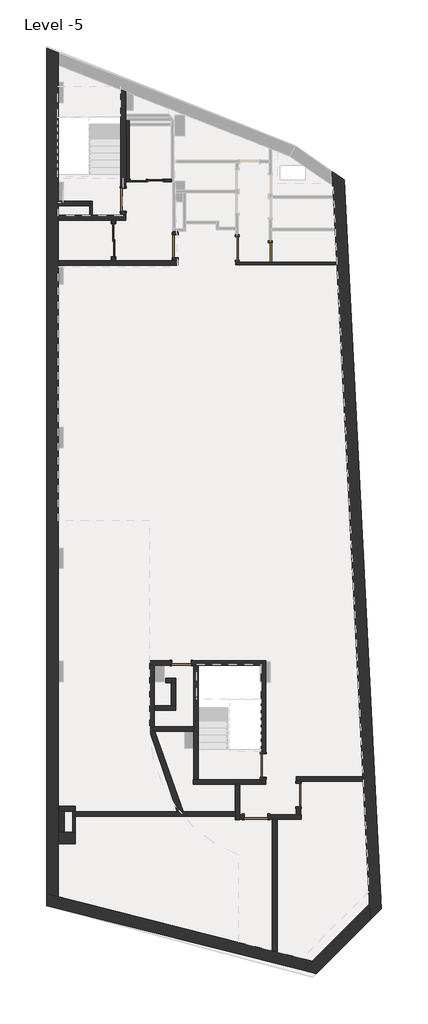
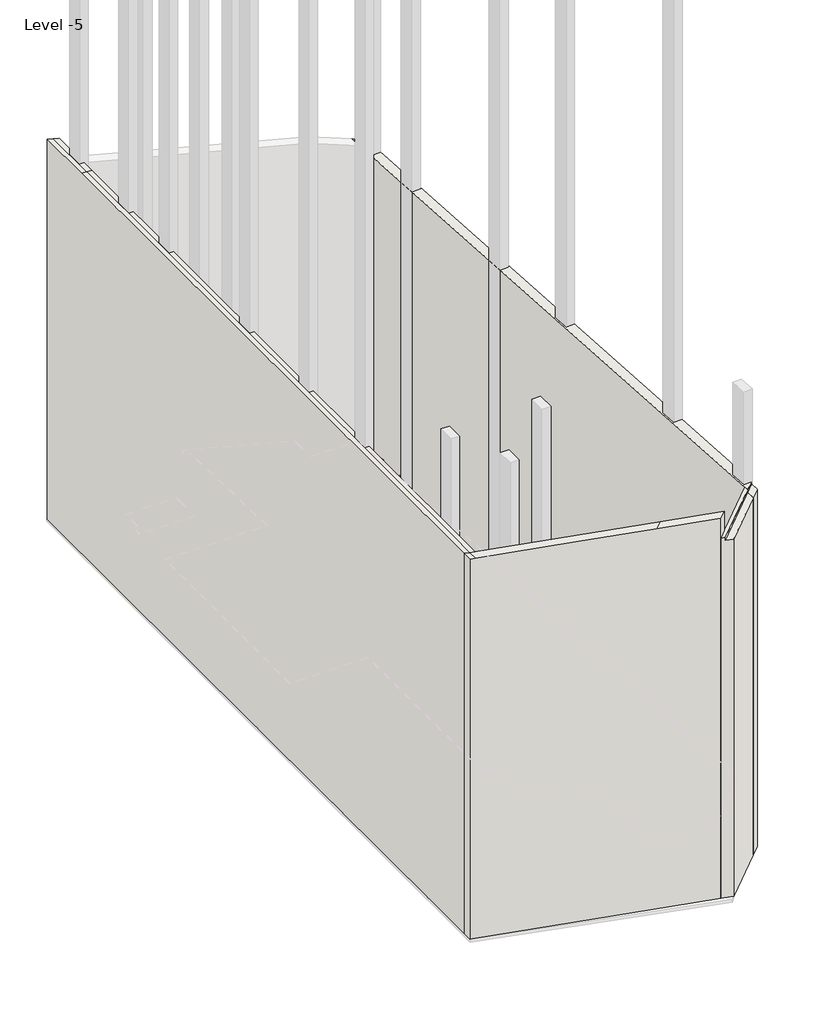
# One storey, part 1 of 3: 34 walls, 10 doors.
"""IFC4 building model written with IfcOpenShell, lengths in millimetres."""

from ifc_helpers import new_model, si_unit, point, frame, frame_2d, origin, place, context, project, spatial, polyline, circle_curve, trimmed, segment, composite_curve, outline, extrude, faceted_brep, transform, mapped, element, save
from ifc_brep_helpers import plane_surface, cylinder_surface, advanced_brep
from components import m_single_flush_0762_x_2134mm_7790ef76, m_single_flush_0762_x_2134mm_e7173df3, m_single_flush_0915_x_2032mm_88b5ae01, m_single_flush_0915_x_2134mm_ba1cf13c, m_single_flush_0915_x_2134mm_5c733ab1, sliding_door_2_panel_aus_f73f6a40, sliding_door_2_panel_aus_ee5771a8

model = new_model("IFC4")

# Units and contexts
model_context = context("Model", 3, world=origin())
ifc_project = project(units=[si_unit("LENGTHUNIT", "METRE", prefix="MILLI")], contexts=[model_context])

# Site, building, storey
site = spatial("IfcSite", under=ifc_project)
building = spatial("IfcBuilding", under=site)
storey = spatial("IfcBuildingStorey", under=building, Name="Level -5", Elevation=-17500.0)

# Doors
placement = place(None, origin())
m_single_flush_0762_x_2134mm_shape = m_single_flush_0762_x_2134mm_7790ef76(model_context)
element("IfcDoor", 1, ObjectType="M_Single-Flush : 0762 x 2134mm", at=placement, inside=storey, context=model_context, shape_type="MappedRepresentation", body=[
    mapped(m_single_flush_0762_x_2134mm_shape, transform((8282.6571461, 7262.9436582, -17500.0), x_axis=(0.0, -1.0, 0.0), y_axis=(1.0, 0.0, 0.0), z_axis=(0.0, 0.0, 1.0))),
])
m_single_flush_0762_x_2134mm_2_shape = m_single_flush_0762_x_2134mm_e7173df3(model_context)
element("IfcDoor", 2, ObjectType="M_Single-Flush : 0762 x 2134mm", at=placement, inside=storey, context=model_context, shape_type="MappedRepresentation", body=[
    mapped(m_single_flush_0762_x_2134mm_2_shape, transform((4788.992527, -8850.5298497, -17500.0), x_axis=(1.0, 0.0, 0.0), y_axis=(0.0, 1.0, 0.0), z_axis=(0.0, 0.0, 1.0))),
])
m_single_flush_0915_x_2032mm_shape = m_single_flush_0915_x_2032mm_88b5ae01(model_context)
element("IfcDoor", 3, ObjectType="M_Single-Flush : 0915 x 2032mm", at=placement, inside=storey, context=model_context, shape_type="MappedRepresentation", body=[
    mapped(m_single_flush_0915_x_2032mm_shape, transform((8009.9667664, -12880.0279318, -17500.0), x_axis=(0.0, -1.0, 0.0), y_axis=(1.0, 0.0, 0.0), z_axis=(0.0, 0.0, 1.0))),
])
element("IfcDoor", 4, ObjectType="M_Single-Flush : 0915 x 2032mm", at=placement, inside=storey, context=model_context, shape_type="MappedRepresentation", body=[
    mapped(m_single_flush_0915_x_2032mm_shape, transform((7722.1428103, -14889.2880862, -17500.0), x_axis=(1.0, 0.0, 0.0), y_axis=(0.0, 1.0, 0.0), z_axis=(0.0, 0.0, 1.0))),
])
element("IfcDoor", 5, ObjectType="M_Single-Flush : 0915 x 2032mm", at=placement, inside=storey, context=model_context, shape_type="MappedRepresentation", body=[
    mapped(m_single_flush_0915_x_2032mm_shape, transform((9389.9781144, -14035.2077139, -17500.0), x_axis=(0.0, 1.0, 0.0), y_axis=(-1.0, 0.0, 0.0), z_axis=(0.0, 0.0, 1.0))),
])
m_single_flush_0915_x_2134mm_shape = m_single_flush_0915_x_2134mm_ba1cf13c(model_context)
element("IfcDoor", 6, ObjectType="M_Single-Flush : 0915 x 2134mm", at=placement, inside=storey, context=model_context, shape_type="MappedRepresentation", body=[
    mapped(m_single_flush_0915_x_2134mm_shape, transform((6982.6571496, 7419.4436582, -17500.0), x_axis=(0.0, -1.0, 0.0), y_axis=(1.0, 0.0, 0.0), z_axis=(0.0, 0.0, 1.0))),
])
m_single_flush_0915_x_2134mm_2_shape = m_single_flush_0915_x_2134mm_5c733ab1(model_context)
element("IfcDoor", 7, ObjectType="M_Single-Flush : 0915 x 2134mm", at=placement, inside=storey, context=model_context, shape_type="MappedRepresentation", body=[
    mapped(m_single_flush_0915_x_2134mm_2_shape, transform((2509.6668671, 9329.4436159, -17500.0), x_axis=(0.0, -1.0, 0.0), y_axis=(1.0, 0.0, 0.0), z_axis=(0.0, 0.0, 1.0))),
])
element("IfcDoor", 8, ObjectType="M_Single-Flush : 0915 x 2134mm", at=placement, inside=storey, context=model_context, shape_type="MappedRepresentation", body=[
    mapped(m_single_flush_0915_x_2134mm_2_shape, transform((4549.6770164, 7499.4456458, -17500.0), x_axis=(0.0, -1.0, 0.0), y_axis=(1.0, 0.0, 0.0), z_axis=(0.0, 0.0, 1.0))),
])
sliding_door_2_panel_aus_shape = sliding_door_2_panel_aus_f73f6a40(model_context)
element("IfcDoor", 9, ObjectType="Sliding Door - 2 Panel (AUS) : elavator door", at=placement, inside=storey, context=model_context, shape_type="MappedRepresentation", body=[
    mapped(sliding_door_2_panel_aus_shape, transform((2134.7837288, 7646.1973399, -17500.0), x_axis=(0.0, 1.0, 0.0), y_axis=(-1.0, 0.0, 0.0), z_axis=(0.0, 0.0, 1.0))),
])
sliding_door_2_panel_aus_2_shape = sliding_door_2_panel_aus_ee5771a8(model_context)
element("IfcDoor", 10, ObjectType="Sliding Door - 2 Panel (AUS) : elavator door", at=placement, inside=storey, context=model_context, shape_type="MappedRepresentation", body=[
    mapped(sliding_door_2_panel_aus_2_shape, transform((3525.434997, 10081.9436225, -17500.0), x_axis=(-1.0, 0.0, 0.0), y_axis=(0.0, -1.0, 0.0), z_axis=(0.0, 0.0, 1.0))),
])

# Walls
element("IfcWall", 11, ObjectType="Generic - 10cm-gypsu-2boith", at=placement, inside=storey, context=model_context, shape_type="Brep", body=[
    faceted_brep([(10839.3061108, 6881.9436582, -17500.0), (7032.6571496, 6881.9436582, -17500.0), (6932.6571496, 6881.9436582, -17500.0), (6932.6571496, 6881.9436582, -14241.0), (7032.6571496, 6881.9436582, -14241.0), (8232.6571461, 6881.9436582, -14241.0), (8332.6571461, 6881.9436582, -14241.0), (10839.3061108, 6881.9436582, -14241.0), (6932.6571496, 6781.9436582, -17500.0), (10839.3061108, 6781.9436582, -17500.0), (10839.3061108, 6781.9436582, -14241.0), (6932.6571496, 6781.9436582, -14241.0)], [[[0, 1, 2, 3, 4, 5, 6, 7]], [[8, 9, 10, 11]], [[2, 1, 0, 9, 8]], [[9, 0, 7, 10]], [[2, 8, 11, 3]], [[7, 6, 5, 4, 3, 11, 10]]]),
])
element("IfcWall", 12, ObjectType="Generic - 18cm-gypsu-2boith 2", at=placement, inside=storey, context=model_context, shape_type="Brep", body=[
    faceted_brep([(4639.6770164, 6931.9670663, -17500.0), (4459.6770164, 6931.9670663, -17500.0), (2224.7837288, 6931.9670663, -17500.0), (2044.7837288, 6931.9670663, -17500.0), (-50.0290025, 6931.9670663, -17500.0), (-50.0290025, 6931.9670663, -14000.0), (2044.7837288, 6931.9670663, -14000.0), (2224.7837288, 6931.9670663, -14000.0), (4459.6770164, 6931.9670663, -14000.0), (4639.6770164, 6931.9670663, -14000.0), (4639.6770164, 6751.9670663, -17500.0), (4639.6770164, 6751.9670663, -14000.0), (-50.0290025, 6751.9670663, -14000.0), (-50.0290025, 6751.9670663, -17500.0)], [[[0, 1, 2, 3, 4, 5, 6, 7, 8, 9]], [[10, 11, 12, 13]], [[4, 3, 2, 1, 0, 10, 13]], [[9, 8, 7, 6, 5, 12, 11]], [[5, 4, 13, 12]], [[0, 9, 11, 10]]]),
])
element("IfcWall", 13, ObjectType="Generic - 18cm-gypsu-2boith 2", at=placement, inside=storey, context=model_context, shape_type="SweptSolid", body=[
    extrude(outline(polyline([(7041.9456458, -15366.0), (7041.9456458, -17500.0), (6931.9670663, -17500.0), (6931.9670663, -14000.0), (8066.9242252, -14000.0), (8066.9242252, -17500.0), (7956.9456458, -17500.0), (7956.9456458, -15366.0), (7041.9456458, -15366.0)])), frame((4459.6770164, 0.0, 0.0), z_axis=(1.0, 0.0, 0.0), x_axis=(0.0, 1.0, 0.0)), (0.0, 0.0, 1.0), 180.0),
])
element("IfcWall", 14, ObjectType="Generic - 18cm-gypsu-2boith 2", at=placement, inside=storey, context=model_context, shape_type="Brep", body=[
    faceted_brep([(2419.6668671, 8871.9436159, -15366.0), (2419.6668671, 8871.9436159, -17500.0), (2419.6668671, 8711.9436159, -17500.0), (2419.6668671, 8711.9436159, -14000.0), (2419.6668671, 13644.4416764, -14000.0), (2419.6668671, 13644.4416764, -17500.0), (2419.6668671, 9786.9436159, -17500.0), (2419.6668671, 9786.9436159, -15366.0), (2599.6668671, 8711.9436159, -17500.0), (2599.6668671, 8871.9436159, -17500.0), (2599.6668671, 8871.9436159, -15366.0), (2599.6668671, 9786.9436159, -15366.0), (2599.6668671, 9786.9436159, -17500.0), (2599.6668671, 13573.7027314, -17500.0), (2599.6668671, 13573.7027314, -14000.0), (2599.6668671, 8711.9436159, -14000.0)], [[[0, 1, 2, 3, 4, 5, 6, 7]], [[8, 9, 10, 11, 12, 13, 14, 15]], [[6, 5, 13, 12]], [[2, 1, 9, 8]], [[4, 3, 15, 14]], [[3, 2, 8, 15]], [[10, 9, 1, 0]], [[11, 10, 0, 7]], [[12, 11, 7, 6]], [[5, 4, 14, 13]]]),
])
element("IfcWall", 15, ObjectType="Generic - 18cm-gypsu-2boith 2", at=placement, inside=storey, context=model_context, shape_type="Brep", body=[
    faceted_brep([(2599.6668671, 8711.9436159, -17500.0), (2419.6668671, 8711.9436159, -17500.0), (-50.0290025, 8711.9436159, -17500.0), (-50.0290025, 8711.9436159, -14000.0), (2419.6668671, 8711.9436159, -14000.0), (2599.6668671, 8711.9436159, -14000.0), (2599.6668671, 8531.9436159, -17500.0), (2599.6668671, 8531.9436159, -14000.0), (2224.7837288, 8531.9436159, -14000.0), (2044.7837288, 8531.9436159, -14000.0), (-50.0290025, 8531.9436159, -14000.0), (-50.0290025, 8531.9436159, -17500.0), (2044.7837288, 8531.9436159, -17500.0), (2224.7837288, 8531.9436159, -17500.0)], [[[0, 1, 2, 3, 4, 5]], [[6, 7, 8, 9, 10, 11, 12, 13]], [[2, 1, 0, 6, 13, 12, 11]], [[5, 4, 3, 10, 9, 8, 7]], [[0, 5, 7, 6]], [[3, 2, 11, 10]]]),
])
element("IfcWall", 16, ObjectType="Generic - 10cm-gypsu-2boith", at=placement, inside=storey, context=model_context, shape_type="Brep", body=[
    faceted_brep([(1198.6625691, 9269.4957276, -17500.0), (1198.6625691, 9089.4957276, -17500.0), (1198.6625691, 8731.9436159, -17500.0), (1198.6625691, 8731.9436159, -14000.0), (1198.6625691, 9089.4957276, -14000.0), (1198.6625691, 9269.4957276, -14000.0), (1298.6625691, 9269.4957276, -17500.0), (1298.6625691, 9269.4957276, -14000.0), (1298.6625691, 8731.9436159, -14000.0), (1298.6625691, 8731.9436159, -17500.0)], [[[0, 1, 2, 3, 4, 5]], [[6, 7, 8, 9]], [[2, 1, 0, 6, 9]], [[3, 2, 9, 8]], [[5, 4, 3, 8, 7]], [[0, 5, 7, 6]]]),
])
element("IfcWall", 17, ObjectType="Generic - 18cm-gypsu-2boith 2", at=placement, inside=storey, context=model_context, shape_type="SweptSolid", body=[
    extrude(outline(polyline([(1198.6625691, 9089.4957276), (-50.0290025, 9089.4957276), (-50.0290025, 9269.4957276), (1198.6625691, 9269.4957276), (1198.6625691, 9089.4957276)])), frame((0.0, 0.0, -17500.0), z_axis=(0.0, 0.0, 1.0), x_axis=(1.0, 0.0, 0.0)), (0.0, 0.0, 1.0), 3500.0),
])
element("IfcWall", 18, ObjectType="Generic - 18cm-gypsu-2boith 2", at=placement, inside=storey, context=model_context, shape_type="Brep", body=[
    faceted_brep([(7919.9667664, -8760.5298497, -17500.0), (5169.992527, -8760.5298497, -17500.0), (5169.992527, -8760.5298497, -15366.0), (4407.992527, -8760.5298497, -15366.0), (4407.992527, -8760.5298497, -17500.0), (3549.4089841, -8760.5298497, -17500.0), (3549.4089841, -8760.5298497, -14000.0), (7919.9667664, -8760.5298497, -14000.0), (5169.992527, -8940.5298497, -15366.0), (5169.992527, -8940.5298497, -17500.0), (5269.992527, -8940.5298497, -17500.0), (5449.992527, -8940.5298497, -17500.0), (7919.9667664, -8940.5298497, -17500.0), (7919.9667664, -8940.5298497, -14000.0), (5449.992527, -8940.5298497, -14000.0), (5269.992527, -8940.5298497, -14000.0), (3731.2929486, -8940.5298497, -14000.0), (3551.2929486, -8940.5298497, -14000.0), (3549.4089841, -8940.5298497, -14000.0), (3549.4089841, -8940.5298497, -17500.0), (3551.2929486, -8940.5298497, -17500.0), (3731.2929486, -8940.5298497, -17500.0), (4407.992527, -8940.5298497, -17500.0), (4407.992527, -8940.5298497, -15366.0)], [[[0, 1, 2, 3, 4, 5, 6, 7]], [[8, 9, 10, 11, 12, 13, 14, 15, 16, 17, 18, 19, 20, 21, 22, 23]], [[12, 11, 10, 9, 1, 0]], [[22, 21, 20, 19, 5, 4]], [[6, 5, 19, 18]], [[7, 6, 18, 17, 16, 15, 14, 13]], [[2, 1, 9, 8]], [[3, 2, 8, 23]], [[4, 3, 23, 22]], [[0, 7, 13, 12]]]),
])
element("IfcWall", 19, ObjectType="Generic - 18cm-gypsu-2boith 2", at=placement, inside=storey, context=model_context, shape_type="Brep", body=[
    faceted_brep([(7919.9667664, -13337.5279318, -15468.0), (7919.9667664, -13337.5279318, -17500.0), (7919.9667664, -13437.5279318, -17500.0), (7919.9667664, -13617.5279318, -17500.0), (7919.9667664, -13617.5279318, -14000.0), (7919.9667664, -13437.5279318, -14000.0), (7919.9667664, -8940.5298497, -14000.0), (7919.9667664, -8760.5298497, -14000.0), (7919.9667664, -8760.5298497, -17500.0), (7919.9667664, -8940.5298497, -17500.0), (7919.9667664, -12422.5279318, -17500.0), (7919.9667664, -12422.5279318, -15468.0), (8099.9667664, -13617.5279318, -17500.0), (8099.9667664, -13337.5279318, -17500.0), (8099.9667664, -13337.5279318, -15468.0), (8099.9667664, -12422.5279318, -15468.0), (8099.9667664, -12422.5279318, -17500.0), (8099.9667664, -8760.5298497, -17500.0), (8099.9667664, -8760.5298497, -14000.0), (8099.9667664, -13617.5279318, -14000.0)], [[[0, 1, 2, 3, 4, 5, 6, 7, 8, 9, 10, 11]], [[12, 13, 14, 15, 16, 17, 18, 19]], [[3, 2, 1, 13, 12]], [[10, 9, 8, 17, 16]], [[7, 6, 5, 4, 19, 18]], [[4, 3, 12, 19]], [[14, 13, 1, 0]], [[15, 14, 0, 11]], [[16, 15, 11, 10]], [[8, 7, 18, 17]]]),
])
element("IfcWall", 20, ObjectType="Generic - 18cm-gypsu-2boith 2", at=placement, inside=storey, context=model_context, shape_type="Brep", body=[
    faceted_brep([(5449.992527, -13437.5279318, -17500.0), (5449.992527, -8940.5298497, -17500.0), (5449.992527, -8940.5298497, -14000.0), (5449.992527, -13437.5279318, -14000.0), (5269.992527, -13437.5279318, -17500.0), (5269.992527, -13437.5279318, -14000.0), (5269.992527, -11535.2406086, -14000.0), (5269.992527, -11355.2406086, -14000.0), (5269.992527, -8940.5298497, -14000.0), (5269.992527, -8940.5298497, -17500.0), (5269.992527, -11355.2406086, -17500.0), (5269.992527, -11535.2406086, -17500.0)], [[[0, 1, 2, 3]], [[4, 5, 6, 7, 8, 9, 10, 11]], [[1, 0, 4, 11, 10, 9]], [[3, 2, 8, 7, 6, 5]], [[2, 1, 9, 8]], [[0, 3, 5, 4]]]),
])
element("IfcWall", 21, ObjectType="Generic - 18cm-gypsu-2boith 2", at=placement, inside=storey, context=model_context, shape_type="Brep", body=[
    faceted_brep([(7919.9667664, -13437.5279318, -17500.0), (5449.992527, -13437.5279318, -17500.0), (5269.992527, -13437.5279318, -17500.0), (5249.9709976, -13437.5279318, -17500.0), (5249.9709976, -13437.5279318, -14000.0), (5269.992527, -13437.5279318, -14000.0), (5449.992527, -13437.5279318, -14000.0), (7919.9667664, -13437.5279318, -14000.0), (7919.9667664, -13617.5279318, -17500.0), (7919.9667664, -13617.5279318, -14000.0), (7077.1731359, -13617.5279318, -14000.0), (6897.1731359, -13617.5279318, -14000.0), (5249.9709976, -13617.5279318, -14000.0), (5249.9709976, -13617.5279318, -17500.0), (6897.1731359, -13617.5279318, -17500.0), (7077.1731359, -13617.5279318, -17500.0)], [[[0, 1, 2, 3, 4, 5, 6, 7]], [[8, 9, 10, 11, 12, 13, 14, 15]], [[3, 2, 1, 0, 8, 15, 14, 13]], [[4, 3, 13, 12]], [[7, 6, 5, 4, 12, 11, 10, 9]], [[0, 7, 9, 8]]]),
])
element("IfcWall", 22, ObjectType="Generic - 18cm-gypsu-2boith 2", at=placement, inside=storey, context=model_context, shape_type="Brep", body=[
    faceted_brep([(11918.2515023, -13317.7077139, -17500.0), (9299.9781144, -13317.7077139, -17500.0), (9299.9781144, -13317.7077139, -14241.0), (11918.2515023, -13317.7077139, -14241.0), (9299.9781144, -13497.7077139, -17500.0), (9479.9781144, -13497.7077139, -17500.0), (11927.4136521, -13497.7077139, -17500.0), (11927.4136521, -13497.7077139, -14241.0), (9479.9781144, -13497.7077139, -14241.0), (9299.9781144, -13497.7077139, -14241.0)], [[[0, 1, 2, 3]], [[4, 5, 6, 7, 8, 9]], [[1, 0, 6, 5, 4]], [[6, 0, 3, 7]], [[1, 4, 9, 2]], [[3, 2, 9, 8, 7]]]),
])
element("IfcWall", 23, ObjectType="Generic - 18cm-gypsu-2boith 2", at=placement, inside=storey, context=model_context, shape_type="SweptSolid", body=[
    extrude(outline(polyline([(-13577.7077139, -17500.0), (-13577.7077139, -15468.0), (-14492.7077139, -15468.0), (-14492.7077139, -17500.0), (-14799.2880862, -17500.0), (-14799.2880862, -14241.0), (-13497.7077139, -14241.0), (-13497.7077139, -17500.0), (-13577.7077139, -17500.0)])), frame((9299.9781144, 0.0, 0.0), z_axis=(1.0, 0.0, 0.0), x_axis=(0.0, 1.0, 0.0)), (0.0, 0.0, 1.0), 180.0),
])
element("IfcWall", 24, ObjectType="Generic - 18cm-gypsu-2boith 2", at=placement, inside=storey, context=model_context, shape_type="Brep", body=[
    faceted_brep([(6897.1731359, -13617.5279318, -17500.0), (6897.1731359, -14689.2880862, -17500.0), (6897.1731359, -14869.2880862, -17500.0), (6897.1731359, -15009.2880862, -17500.0), (6897.1731359, -15009.2880862, -14241.0), (6897.1731359, -13617.5279318, -14241.0), (7077.1731359, -15009.2880862, -17500.0), (7077.1731359, -14979.2880862, -17500.0), (7077.1731359, -14799.2880862, -17500.0), (7077.1731359, -13617.5279318, -17500.0), (7077.1731359, -13617.5279318, -14241.0), (7077.1731359, -14799.2880862, -14241.0), (7077.1731359, -14979.2880862, -14241.0), (7077.1731359, -15009.2880862, -14241.0)], [[[0, 1, 2, 3, 4, 5]], [[6, 7, 8, 9, 10, 11, 12, 13]], [[3, 2, 1, 0, 9, 8, 7, 6]], [[3, 6, 13, 4]], [[9, 0, 5, 10]], [[5, 4, 13, 12, 11, 10]]]),
])
element("IfcWall", 25, ObjectType="Generic - 18cm-gypsu-2boith 2", at=placement, inside=storey, context=model_context, shape_type="Brep", body=[
    faceted_brep([(8179.6428103, -14799.2880862, -17500.0), (8179.6428103, -14799.2880862, -15468.0), (7264.6428103, -14799.2880862, -15468.0), (7264.6428103, -14799.2880862, -17500.0), (7077.1731359, -14799.2880862, -17500.0), (7077.1731359, -14799.2880862, -14241.0), (9299.9781144, -14799.2880862, -14241.0), (9479.9781144, -14799.2880862, -14241.0), (9499.9781144, -14799.2880862, -14241.0), (9499.9781144, -14799.2880862, -17500.0), (9479.9781144, -14799.2880862, -17500.0), (9299.9781144, -14799.2880862, -17500.0), (8179.6428103, -14979.2880862, -15468.0), (8179.6428103, -14979.2880862, -17500.0), (8367.1124847, -14979.2880862, -17500.0), (8547.1124847, -14979.2880862, -17500.0), (9499.9781144, -14979.2880862, -17500.0), (9499.9781144, -14979.2880862, -14241.0), (8547.1124847, -14979.2880862, -14241.0), (8367.1124847, -14979.2880862, -14241.0), (7077.1731359, -14979.2880862, -14241.0), (7077.1731359, -14979.2880862, -17500.0), (7264.6428103, -14979.2880862, -17500.0), (7264.6428103, -14979.2880862, -15468.0)], [[[0, 1, 2, 3, 4, 5, 6, 7, 8, 9, 10, 11]], [[12, 13, 14, 15, 16, 17, 18, 19, 20, 21, 22, 23]], [[9, 16, 15, 14, 13, 0, 11, 10]], [[21, 4, 3, 22]], [[16, 9, 8, 17]], [[1, 0, 13, 12]], [[2, 1, 12, 23]], [[3, 2, 23, 22]], [[4, 21, 20, 5]], [[8, 7, 6, 5, 20, 19, 18, 17]]]),
])
element("IfcWall", 26, ObjectType="Generic - 18cm-gypsu-2boith 2", at=placement, inside=storey, context=model_context, shape_type="SweptSolid", body=[
    extrude(outline(polyline([(8367.1124847, -20147.3969792), (8367.1124847, -14979.2880862), (8547.1124847, -14979.2880862), (8547.1124847, -20192.8959448), (8367.1124847, -20147.3969792)])), frame((0.0, 0.0, -17500.0), z_axis=(0.0, 0.0, 1.0), x_axis=(1.0, 0.0, 0.0)), (0.0, 0.0, 1.0), 3259.0),
])
element("IfcWall", 27, ObjectType="Generic - 18cm-gypsu-2boith 2", at=placement, inside=storey, context=model_context, shape_type="Brep", body=[
    faceted_brep([(6897.1731359, -14689.2880862, -17500.0), (4859.7951015, -14689.2880862, -17500.0), (4622.293452, -14689.2880862, -17500.0), (629.6921124, -14689.2880862, -17500.0), (629.6921124, -14689.2880862, -15690.9964414), (6897.1731359, -14689.2880862, -15690.9964414), (6897.1731359, -14869.2880862, -17500.0), (6897.1731359, -14869.2880862, -15690.9964414), (629.6921124, -14869.2880862, -15690.9964414), (629.6921124, -14869.2880862, -17500.0)], [[[0, 1, 2, 3, 4, 5]], [[6, 7, 8, 9]], [[3, 2, 1, 0, 6, 9]], [[5, 4, 8, 7]], [[0, 5, 7, 6]], [[4, 3, 9, 8]]]),
])
element("IfcWall", 28, ObjectType="Generic - 18cm-gypsu-2boith 2", at=placement, inside=storey, context=model_context, shape_type="AdvancedBrep", body=[
    advanced_brep(
    [(5269.992527, -11355.2406086, -17500.0), (3571.3264677, -11355.2406086, -17500.0), (3571.3264677, -11355.2406086, -14000.0), (5269.992527, -11355.2406086, -14000.0), (5269.992527, -11535.2406086, -17500.0), (5269.992527, -11535.2406086, -14000.0), (3740.061619, -11535.2406086, -14000.0), (3559.8804604, -11535.2406086, -14000.0), (3559.8804604, -11535.2406086, -17500.0), (3740.061619, -11535.2406086, -17500.0)],
    [
        (0, 1),
        (1, 2),
        (2, 3),
        (3, 0),
        (4, 5),
        (5, 6),
        (6, 7),
        (7, 8),
        (8, 9),
        (9, 4),
        (0, 4),
        (8, 1, circle_curve(frame((8170.7225142, -11738.0751988, -17500.0), z_axis=(0.0, 0.0, -1.0), x_axis=(-0.996421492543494, -0.08452342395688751, 0.0)), 4615.3013245)),
        (2, 7, circle_curve(frame((8170.7225142, -11738.0751988, -14000.0), z_axis=(0.0, 0.0, 1.0), x_axis=(-0.996421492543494, -0.08452342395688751, 0.0)), 4615.3013245)),
        (5, 3),
    ],
    [
        plane_surface(frame((4899.9914965, -11355.2406086, -17500.0), z_axis=(0.0, 1.0, 0.0), x_axis=(-1.0, 0.0, 0.0))),
        plane_surface(frame((4899.9914965, -11535.2406086, -17500.0), z_axis=(0.0, -1.0, 0.0), x_axis=(1.0, 0.0, 0.0))),
        plane_surface(frame((5359.992527, -11355.2406086, -17500.0), z_axis=(0.0, 0.0, -1.0), x_axis=(0.0, -1.0, 0.0))),
        plane_surface(frame((3654.9058682, -11355.2406086, -14000.0), z_axis=(0.0, 0.0, 1.0), x_axis=(0.0, -1.0, 0.0))),
        cylinder_surface(frame((8170.7225142, -11738.0751988, -17500.0), z_axis=(0.0, 0.0, 1.0), x_axis=(-0.996421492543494, -0.08452342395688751, 0.0)), 4615.3013245),
        plane_surface(frame((5269.992527, -8797.3826572, -17500.0), z_axis=(1.0, 0.0, 0.0), x_axis=(0.0, -1.0, 0.0))),
    ],
    [
        (0, [[1, 2, 3, 4]]),
        (1, [[5, 6, 7, 8, 9, 10]]),
        (2, [[-1, 11, -10, -9, 12]]),
        (3, [[-3, 13, -7, -6, 14]]),
        (4, [[-2, -12, -8, -13]]),
        (5, [[-4, -14, -5, -11]]),
    ],
),
])
element("IfcWall", 29, ObjectType="Generic - 18cm-gypsu-2boith 2", at=placement, inside=storey, context=model_context, shape_type="Brep", body=[
    faceted_brep([(4578.6875281, -10530.0867626, -17500.0), (4398.6875281, -10530.0867626, -17500.0), (3731.2929486, -10530.0867626, -17500.0), (3731.2929486, -10530.0867626, -14000.0), (4398.6875281, -10530.0867626, -14000.0), (4578.6875281, -10530.0867626, -14000.0), (4578.6875281, -10710.0867626, -17500.0), (4578.6875281, -10710.0867626, -14000.0), (3731.2929486, -10710.0867626, -14000.0), (3731.2929486, -10710.0867626, -17500.0)], [[[0, 1, 2, 3, 4, 5]], [[6, 7, 8, 9]], [[2, 1, 0, 6, 9]], [[5, 4, 3, 8, 7]], [[0, 5, 7, 6]], [[3, 2, 9, 8]]]),
])
element("IfcWall", 30, ObjectType="Generic - 18cm-gypsu-2boith 2", at=placement, inside=storey, context=model_context, shape_type="SweptSolid", body=[
    extrude(outline(polyline([(4398.6875281, -10530.0867626), (4398.6875281, -9630.0867626), (4578.6875281, -9630.0867626), (4578.6875281, -10530.0867626), (4398.6875281, -10530.0867626)])), frame((0.0, 0.0, -17500.0), z_axis=(0.0, 0.0, 1.0), x_axis=(1.0, 0.0, 0.0)), (0.0, 0.0, 1.0), 3500.0),
])
element("IfcWall", 31, ObjectType="Generic - 18cm-gypsu-2boith 2", at=placement, inside=storey, context=model_context, shape_type="Brep", body=[
    faceted_brep([(4180.1461928, -9630.0867626, -17500.0), (4398.6875281, -9630.0867626, -17500.0), (4578.6875281, -9630.0867626, -17500.0), (4578.6875281, -9630.0867626, -14000.0), (4398.6875281, -9630.0867626, -14000.0), (4180.1461928, -9630.0867626, -14000.0), (4180.1461928, -9450.0867626, -17500.0), (4180.1461928, -9450.0867626, -14000.0), (4578.6875281, -9450.0867626, -14000.0), (4578.6875281, -9450.0867626, -17500.0)], [[[0, 1, 2, 3, 4, 5]], [[6, 7, 8, 9]], [[2, 1, 0, 6, 9]], [[5, 4, 3, 8, 7]], [[0, 5, 7, 6]], [[3, 2, 9, 8]]]),
])
element("IfcWall", 32, ObjectType="Generic - 18cm-gypsu-2boith 2", at=placement, inside=storey, context=model_context, shape_type="Brep", body=[
    faceted_brep([(3551.2929486, -8940.5298497, -17500.0), (3551.2929486, -11345.2406086, -17500.0), (3551.2929486, -11345.2406086, -14000.0), (3551.2929486, -8940.5298497, -14000.0), (3731.2929486, -8940.5298497, -17500.0), (3731.2929486, -8940.5298497, -14000.0), (3731.2929486, -10530.0867626, -14000.0), (3731.2929486, -10710.0867626, -14000.0), (3731.2929486, -11345.2406086, -14000.0), (3731.2929486, -11345.2406086, -17500.0), (3731.2929486, -10710.0867626, -17500.0), (3731.2929486, -10530.0867626, -17500.0)], [[[0, 1, 2, 3]], [[4, 5, 6, 7, 8, 9, 10, 11]], [[1, 0, 4, 11, 10, 9]], [[2, 1, 9, 8]], [[3, 2, 8, 7, 6, 5]], [[0, 3, 5, 4]]]),
])
element("IfcWall", 33, ObjectType="Generic - 18cm-gypsu-2boith 2", at=placement, inside=storey, context=model_context, shape_type="SweptSolid", body=[
    extrude(outline(composite_curve([segment(polyline([(4859.7951015, -14689.2880862), (4622.293452, -14689.2880862)]), True, "CONTINUOUS"), segment(trimmed(circle_curve(frame_2d((8170.7225142, -11738.0751988)), 4615.3013245), [point((4622.293452, -14689.2880862))], [point((3559.8804604, -11535.2406086))], False, "CARTESIAN"), True, "CONTINUOUS"), segment(polyline([(3559.8804604, -11535.2406086), (3740.061619, -11535.2406086)]), True, "CONTINUOUS"), segment(trimmed(circle_curve(frame_2d((8170.7225142, -11738.0751988)), 4435.3013245), [point((3740.061619, -11535.2406086))], [point((4859.7951015, -14689.2880862))], True, "CARTESIAN"), True, "CONTINUOUS")], self_intersect=False)), frame((0.0, 0.0, -17500.0), z_axis=(0.0, 0.0, 1.0), x_axis=(1.0, 0.0, 0.0)), (0.0, 0.0, 1.0), 3500.0),
])
element("IfcWall", 34, ObjectType="Generic - 10cm-gypsu-2boith", at=placement, inside=storey, context=model_context, shape_type="AdvancedBrep", body=[
    advanced_brep(
    [(529.6921124, -14677.0281251, -17500.0), (529.6921124, -15487.6321885, -17500.0), (529.6921124, -15487.6321885, -14241.0), (529.6921124, -14677.0281251, -14241.0), (629.6921124, -15487.6321885, -17500.0), (629.6921124, -14869.2880862, -17500.0), (629.6921124, -14689.2880862, -17500.0), (629.6921124, -14677.5677486, -17500.0), (629.6921124, -14677.5677486, -14000.0), (629.6921124, -14756.161328, -14000.0), (629.6921124, -14756.161328, -14241.0), (629.6921124, -15487.6321885, -14241.0), (597.5579867, -14677.3943453, -14000.0), (597.5579867, -14677.3943453, -14241.0)],
    [
        (0, 1),
        (1, 2),
        (2, 3),
        (3, 0),
        (4, 5),
        (5, 6),
        (6, 7),
        (7, 8),
        (8, 9),
        (9, 10),
        (10, 11),
        (11, 4),
        (0, 7),
        (4, 1),
        (8, 12),
        (12, 9, circle_curve(frame((9044.1542392, -11277.4219597, -14000.0), z_axis=(0.0, 0.0, 1.0), x_axis=(1.0, 0.0, 0.0)), 9105.2073274)),
        (11, 2),
        (3, 13),
        (13, 12),
        (10, 13, circle_curve(frame((9044.1542392, -11277.4219597, -14241.0), z_axis=(0.0, 0.0, -1.0), x_axis=(1.0, 0.0, 0.0)), 9105.2073274)),
    ],
    [
        plane_surface(frame((529.6921124, -14909.2880862, -17500.0), z_axis=(-1.0, 0.0, 0.0), x_axis=(0.0, -1.0, 0.0))),
        plane_surface(frame((629.6921124, -14909.2880862, -17500.0), z_axis=(1.0, 0.0, 0.0), x_axis=(0.0, 1.0, 0.0))),
        plane_surface(frame((529.6921124, -14577.2964809, -17500.0), z_axis=(0.0, 0.0, -1.0), x_axis=(1.0, 0.0, 0.0))),
        plane_surface(frame((529.6921124, -15712.6321885, -14000.0), z_axis=(0.0, 0.0, 1.0), x_axis=(1.0, 0.0, 0.0))),
        plane_surface(frame((679.6921124, -15487.6321885, -17500.0), z_axis=(0.0, -1.0, 0.0), x_axis=(-1.0, 0.0, 0.0))),
        plane_surface(frame((193.1581362, -14675.2121088, -17500.0), z_axis=(0.0053961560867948, 0.999985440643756, 0.0), x_axis=(0.999985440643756, -0.0053961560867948, 0.0))),
        plane_surface(frame((9156.5694815, 11238.6298521, -14241.0), z_axis=(0.0, 0.0, 1.0), x_axis=(0.8216198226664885, -0.5700358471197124, 0.0))),
        cylinder_surface(frame((9044.1542392, -11277.4219597, -14000.0), z_axis=(0.0, 0.0, 1.0), x_axis=(1.0, 0.0, 0.0)), 9105.2073274),
    ],
    [
        (0, [[1, 2, 3, 4]]),
        (1, [[5, 6, 7, 8, 9, 10, 11, 12]]),
        (2, [[-1, 13, -7, -6, -5, 14]]),
        (3, [[-9, 15, 16]]),
        (4, [[-14, -12, 17, -2]]),
        (5, [[-8, -13, -4, 18, 19, -15]]),
        (6, [[20, -18, -3, -17, -11]]),
        (7, [[-20, -10, -16, -19]]),
    ],
),
])
element("IfcWall", 35, ObjectType="Generic - 10cm-gypsu-2boith", at=placement, inside=storey, context=model_context, shape_type="Brep", body=[
    faceted_brep([(4399.6302337, 10031.9436225, -14000.0), (2649.6769958, 10031.9436225, -14000.0), (2649.6769958, 10031.9436225, -17500.0), (2749.6769958, 10031.9436225, -17500.0), (2749.6769958, 10031.9436225, -15317.0), (4129.6769958, 10031.9436225, -15317.0), (4129.6769958, 10031.9436225, -17500.0), (4399.6302337, 10031.9436225, -17500.0), (2649.6769958, 10131.9436225, -14000.0), (2749.6769958, 10131.9436225, -14000.0), (4399.6302337, 10131.9436225, -14000.0), (4399.6302337, 10131.9436225, -17500.0), (4129.6769958, 10131.9436225, -17500.0), (4129.6769958, 10131.9436225, -15317.0), (2749.6769958, 10131.9436225, -15317.0), (2749.6769958, 10131.9436225, -17500.0), (2649.6769958, 10131.9436225, -17500.0)], [[[0, 1, 2, 3, 4, 5, 6, 7]], [[8, 9, 10, 11, 12, 13, 14, 15, 16]], [[2, 16, 15, 3]], [[11, 7, 6, 12]], [[1, 0, 10, 9, 8]], [[2, 1, 8, 16]], [[0, 7, 11, 10]], [[5, 13, 12, 6]], [[13, 5, 4, 14]], [[14, 4, 3, 15]]]),
])
element("IfcWall", 36, ObjectType="Generic - 10cm-gypsu-2boith", at=placement, inside=storey, context=model_context, shape_type="Brep", body=[
    faceted_brep([(2649.6769958, 12431.9436225, -17500.0), (2649.6769958, 10131.9436225, -17500.0), (2649.6769958, 10131.9436225, -14000.0), (2649.6769958, 12431.9436225, -14000.0), (2749.6769958, 12431.9436225, -17500.0), (2749.6769958, 12431.9436225, -14000.0), (2749.6769958, 12331.9436225, -14000.0), (2749.6769958, 12231.9436225, -14000.0), (2749.6769958, 10131.9436225, -14000.0), (2749.6769958, 10131.9436225, -17500.0), (2749.6769958, 12231.9436225, -17500.0), (2749.6769958, 12331.9436225, -17500.0)], [[[0, 1, 2, 3]], [[4, 5, 6, 7, 8, 9, 10, 11]], [[1, 0, 4, 11, 10, 9]], [[3, 2, 8, 7, 6, 5]], [[2, 1, 9, 8]], [[0, 3, 5, 4]]]),
])
element("IfcWall", 37, ObjectType="Generic - 18cm-gypsu-2boith 2", at=placement, inside=storey, context=model_context, shape_type="SweptSolid", body=[
    extrude(outline(polyline([(6931.9670663, -14000.0), (8531.9436159, -14000.0), (8531.9436159, -17500.0), (8421.9553411, -17500.0), (8421.9553411, -15317.0), (7041.9553411, -15317.0), (7041.9553411, -17500.0), (6931.9670663, -17500.0), (6931.9670663, -14000.0)])), frame((2044.7837288, 0.0, 0.0), z_axis=(1.0, 0.0, 0.0), x_axis=(0.0, 1.0, 0.0)), (0.0, 0.0, 1.0), 180.0),
])
element("IfcWall", 38, ObjectType="Generic - 200mm", at=placement, inside=storey, context=model_context, shape_type="AdvancedBrep", body=[
    advanced_brep(
    [(629.6921124, -14477.5648367, -17500.0), (-6.8418638, -14474.12995, -17500.0), (-6.8418638, -14474.12995, -14241.0), (519.6198058, -14476.9708607, -14241.0), (519.6198058, -14476.9708607, -14000.0), (629.6921124, -14477.5648367, -14000.0), (-6.8418638, -14674.1328619, -17500.0), (193.1581362, -14675.2121088, -17500.0), (529.6921124, -14677.0281251, -17500.0), (629.6921124, -14677.5677486, -17500.0), (629.6921124, -14677.5677486, -14000.0), (597.5579867, -14677.3943453, -14000.0), (597.5579867, -14677.3943453, -14241.0), (529.6921124, -14677.0281251, -14241.0), (193.1581362, -14675.2121088, -14241.0), (-6.8418638, -14674.1328619, -14241.0)],
    [
        (0, 1),
        (1, 2),
        (2, 3),
        (3, 4),
        (4, 5),
        (5, 0),
        (6, 7),
        (7, 8),
        (8, 9),
        (9, 10),
        (10, 11),
        (11, 12),
        (12, 13),
        (13, 14),
        (14, 15),
        (15, 6),
        (0, 9),
        (6, 1),
        (10, 5),
        (4, 11, circle_curve(frame((9044.1542392, -11277.4219597, -14000.0), z_axis=(0.0, 0.0, 1.0), x_axis=(1.0, 0.0, 0.0)), 9105.2073274)),
        (15, 2),
        (12, 3, circle_curve(frame((9044.1542392, -11277.4219597, -14241.0), z_axis=(0.0, 0.0, -1.0), x_axis=(1.0, 0.0, 0.0)), 9105.2073274)),
    ],
    [
        plane_surface(frame((194.2373674, -14475.2150207, -17500.0), z_axis=(0.0053961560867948, 0.999985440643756, 0.0), x_axis=(-0.999985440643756, 0.0053961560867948, 0.0))),
        plane_surface(frame((193.1581362, -14675.2121088, -17500.0), z_axis=(-0.0053961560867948, -0.999985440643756, 0.0), x_axis=(0.999985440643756, -0.0053961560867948, 0.0))),
        plane_surface(frame((580.231728, -14477.2979368, -17500.0), z_axis=(0.0, 0.0, -1.0), x_axis=(-0.005396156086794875, -0.999985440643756, 0.0))),
        plane_surface(frame((93.6977518, -14474.6724853, -14000.0), z_axis=(0.0, 0.0, 1.0), x_axis=(-0.00539615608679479, -0.999985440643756, 0.0))),
        plane_surface(frame((-6.8418638, -15445.2121088, -17500.0), z_axis=(-1.0, 0.0, 0.0), x_axis=(0.0, -1.0, 0.0))),
        plane_surface(frame((629.6921124, -14909.2880862, -17500.0), z_axis=(1.0, 0.0, 0.0), x_axis=(0.0, 1.0, 0.0))),
        plane_surface(frame((9156.5694815, 11238.6298521, -14241.0), z_axis=(0.0, 0.0, 1.0), x_axis=(0.8216198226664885, -0.5700358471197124, 0.0))),
        cylinder_surface(frame((9044.1542392, -11277.4219597, -14000.0), z_axis=(0.0, 0.0, 1.0), x_axis=(1.0, 0.0, 0.0)), 9105.2073274),
    ],
    [
        (0, [[1, 2, 3, 4, 5, 6]]),
        (1, [[7, 8, 9, 10, 11, 12, 13, 14, 15, 16]]),
        (2, [[-1, 17, -9, -8, -7, 18]]),
        (3, [[19, -5, 20, -11]]),
        (4, [[-18, -16, 21, -2]]),
        (5, [[-6, -19, -10, -17]]),
        (6, [[22, -3, -21, -15, -14, -13]]),
        (7, [[-22, -12, -20, -4]]),
    ],
),
])
element("IfcWall", 39, ObjectType="Generic - 200mm", at=placement, inside=storey, context=model_context, shape_type="SweptSolid", body=[
    extrude(outline(polyline([(-6.8418638, -15487.6321885), (-6.8418638, -14674.1328619), (193.1581362, -14675.2121088), (193.1581362, -15487.6321885), (-6.8418638, -15487.6321885)])), frame((0.0, 0.0, -17500.0), z_axis=(0.0, 0.0, 1.0), x_axis=(1.0, 0.0, 0.0)), (0.0, 0.0, 1.0), 3259.0),
])
element("IfcWall", 40, ObjectType="Generic - 45cm-granit", at=placement, inside=storey, context=model_context, shape_type="Brep", body=[
    faceted_brep([(10709.2052689, 10435.2679588, -17500.0), (10738.1041383, 9867.5194958, -17500.0), (10822.3546218, 8212.3307768, -17500.0), (10827.4447051, 8112.3307768, -17500.0), (11918.2515023, -13317.7077139, -17500.0), (11927.4136521, -13497.7077139, -17500.0), (12173.3240767, -18328.8747695, -17500.0), (12204.1481948, -18934.4467545, -17500.0), (12204.1481948, -18934.4467545, -150.0), (12183.9880295, -18538.3792587, -150.0), (12183.9880295, -18538.3792587, 0.0), (12173.3240767, -18328.8747695, 0.0), (10816.8754244, 8319.9753316, 0.0), (10808.7312912, 8479.9753316, 0.0), (10738.1041383, 9867.5194958, 0.0), (10709.2052689, 10435.2679588, 0.0), (12632.9066088, -18505.6883405, -17500.0), (11177.5534367, 10086.2443227, -17500.0), (11177.5534367, 10086.2443227, 0.0), (12612.7464436, -18109.6208447, 0.0), (12612.7464436, -18109.6208447, -150.0), (12632.9066088, -18505.6883405, -150.0), (11150.3338228, 10129.2151081, -17500.0), (11152.5857601, 10084.9734471, -17500.0), (11150.3338228, 10129.2151081, 0.0), (11152.5857601, 10084.9734471, 0.0)], [[[0, 1, 2, 3, 4, 5, 6, 7, 8, 9, 10, 11, 12, 13, 14, 15]], [[16, 17, 18, 19, 20, 21]], [[7, 6, 5, 4, 3, 2, 1, 0, 22, 23, 17, 16]], [[24, 15, 14, 13, 12, 11, 10, 19, 18, 25]], [[7, 16, 21, 8]], [[0, 15, 24, 22]], [[23, 25, 18, 17]], [[25, 23, 22, 24]], [[20, 9, 8, 21]], [[9, 20, 19, 10]]]),
])
element("IfcWall", 41, ObjectType="Generic - 45cm-granit", at=placement, inside=storey, context=model_context, shape_type="Brep", body=[
    faceted_brep([(12173.3240767, -18328.8747695, -17500.0), (9953.7454338, -20548.4534124, -17500.0), (9583.2442641, -20918.9545821, -17500.0), (9583.2442641, -20918.9545821, 0.0), (12173.3240767, -18328.8747695, 0.0), (10091.2346145, -21047.3603347, -17500.0), (12204.1481948, -18934.4467545, -17500.0), (12204.1481948, -18934.4467545, -150.0), (10091.2346145, -21047.3603347, -150.0), (9758.9892813, -20963.378007, 0.0), (12183.9880295, -18538.3792587, 0.0), (12183.9880295, -18538.3792587, -150.0), (9758.9892813, -20963.378007, -150.0)], [[[0, 1, 2, 3, 4]], [[5, 6, 7, 8]], [[2, 1, 0, 6, 5]], [[4, 3, 9, 10]], [[0, 4, 10, 11, 7, 6]], [[3, 2, 5, 8, 12, 9]], [[11, 12, 8, 7]], [[12, 11, 10, 9]]]),
])
element("IfcWall", 42, ObjectType="Generic - 45cm-granit", at=placement, inside=storey, context=model_context, shape_type="Brep", body=[
    faceted_brep([(9953.7454338, -20548.4534124, -17500.0), (8547.1124847, -20192.8959448, -17500.0), (8367.1124847, -20147.3969792, -17500.0), (-50.0290025, -18019.7790287, -17500.0), (-500.0290025, -17906.0316147, -17500.0), (-500.0290025, -17906.0316147, 959.0), (-275.0290025, -17962.9053217, 959.0), (-50.0290025, -18019.7790287, 959.0), (7379.0892698, -19897.6523443, 959.0), (9953.7454338, -20548.4534124, 959.0), (9583.2442641, -20918.9545821, -17500.0), (9583.2442641, -20918.9545821, 0.0), (9583.2442641, -20918.9545821, 959.0), (7008.5881001, -20268.1535139, 959.0), (3749.6376114, -19444.3819794, 959.0), (-275.0290025, -18427.0588246, 959.0), (-500.0290025, -18370.1851175, 959.0), (-500.0290025, -18370.1851175, -17500.0)], [[[0, 1, 2, 3, 4, 5, 6, 7, 8, 9]], [[10, 11, 12, 13, 14, 15, 16, 17]], [[4, 3, 2, 1, 0, 10, 17]], [[0, 9, 12, 11, 10]], [[5, 4, 17, 16]], [[9, 8, 13, 12]], [[6, 5, 16, 15]], [[8, 7, 6, 15, 14, 13]]]),
])
element("IfcWall", 43, ObjectType="Generic - 45cm-granit", at=placement, inside=storey, context=model_context, shape_type="Brep", body=[
    faceted_brep([(-50.0290025, -18019.7790287, -17500.0), (-50.0290025, -15937.6321885, -17500.0), (-50.0290025, -15487.6321885, -17500.0), (-50.0290025, 6751.9670663, -17500.0), (-50.0290025, 6931.9670663, -17500.0), (-50.0290025, 8531.9436159, -17500.0), (-50.0290025, 8711.9436159, -17500.0), (-50.0290025, 9089.4957276, -17500.0), (-50.0290025, 9269.4957276, -17500.0), (-50.0290025, 14615.0176776, -17500.0), (-50.0290025, 15098.5205107, -17500.0), (-50.0290025, 15098.5205107, 0.0), (-50.0290025, 15118.3698786, 0.0), (-50.0290025, 15118.3698786, 959.0), (-50.0290025, 12536.9436225, 959.0), (-50.0290025, -18019.7790287, 959.0), (-500.0290025, -17906.0316147, -17500.0), (-500.0290025, -17906.0316147, 959.0), (-500.0290025, 12536.9436225, 959.0), (-500.0290025, 15295.221052, 959.0), (-500.0290025, 15295.221052, 0.0), (-500.0290025, 15275.3678732, 0.0), (-500.0290025, 15275.3678732, -17500.0), (-275.0290025, -17962.9053217, 959.0), (-275.0290025, 15206.7954653, 959.0), (-275.0290025, 12536.9436225, 959.0), (-275.0290025, -16708.2760972, 959.0)], [[[0, 1, 2, 3, 4, 5, 6, 7, 8, 9, 10, 11, 12, 13, 14, 15]], [[16, 17, 18, 19, 20, 21, 22]], [[10, 9, 8, 7, 6, 5, 4, 3, 2, 1, 0, 16, 22]], [[0, 15, 23, 17, 16]], [[14, 13, 24, 25]], [[18, 17, 23, 26, 25]], [[24, 19, 18, 25]], [[15, 14, 25, 26, 23]], [[20, 12, 11, 21]], [[11, 10, 22, 21]], [[13, 12, 20, 19, 24]]]),
])
element("IfcWall", 44, ObjectType="Generic - 45cm-granit", at=placement, inside=storey, context=model_context, shape_type="Brep", body=[
    faceted_brep([(629.6921124, -15487.6321885, -17500.0), (529.6921124, -15487.6321885, -17500.0), (193.1581362, -15487.6321885, -17500.0), (-6.8418638, -15487.6321885, -17500.0), (-50.0290025, -15487.6321885, -17500.0), (-50.0290025, -15487.6321885, -14241.0), (-6.8418638, -15487.6321885, -14241.0), (193.1581362, -15487.6321885, -14241.0), (529.6921124, -15487.6321885, -14241.0), (629.6921124, -15487.6321885, -14241.0), (-50.0290025, -15937.6321885, -17500.0), (629.6921124, -15937.6321885, -17500.0), (629.6921124, -15937.6321885, -14241.0), (-50.0290025, -15937.6321885, -14241.0)], [[[0, 1, 2, 3, 4, 5, 6, 7, 8, 9]], [[10, 11, 12, 13]], [[4, 3, 2, 1, 0, 11, 10]], [[11, 0, 9, 12]], [[4, 10, 13, 5]], [[9, 8, 7, 6, 5, 13, 12]]]),
])

save(model, "model.ifc")
